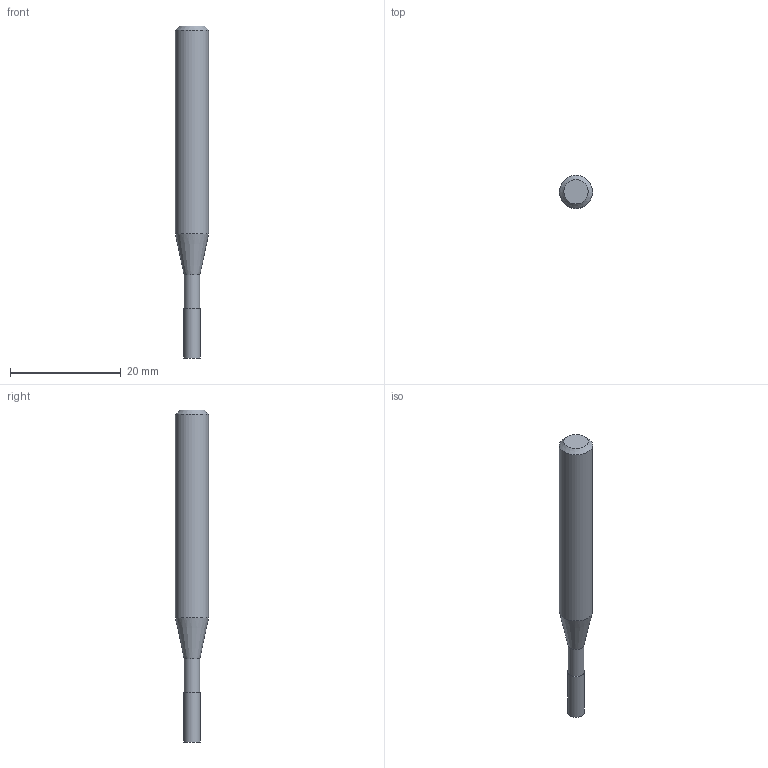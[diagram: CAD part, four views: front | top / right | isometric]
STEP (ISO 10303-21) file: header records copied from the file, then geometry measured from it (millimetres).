
FILE_DESCRIPTION((''),'2;1');
FILE_NAME('C:\Users\nsx150\Desktop\RSE230_20210427\01-00644-03015 RSE230 D3X9X15.step','2021-05-07T14:53:57',(''),(''),'STEP Write','Mastercam 2021 ... CNC Software, Inc.','');
FILE_SCHEMA(('AUTOMOTIVE_DESIGN'));
Length unit declared in the file: millimetre
Products named in the file (1): None
Bounding box: 6 x 6 x 60 mm (x, y, z)
Volume: 1278 mm3; surface area: 991.5 mm2
Topology: 2 solids, 2 shells, 9 faces, 12 edges, 7 vertices
Faces by surface type: plane 4, cylinder 3, cone 2
Full cylindrical faces by diameter (mm): 2.85 x1, 3 x1, 6 x1
Entity records: 211 total; most frequent: DIRECTION 36, CARTESIAN_POINT 25, AXIS2_PLACEMENT_3D 18, ORIENTED_EDGE 14, EDGE_LOOP 14, STYLED_ITEM 12, ADVANCED_FACE 9, FACE_BOUND 8
